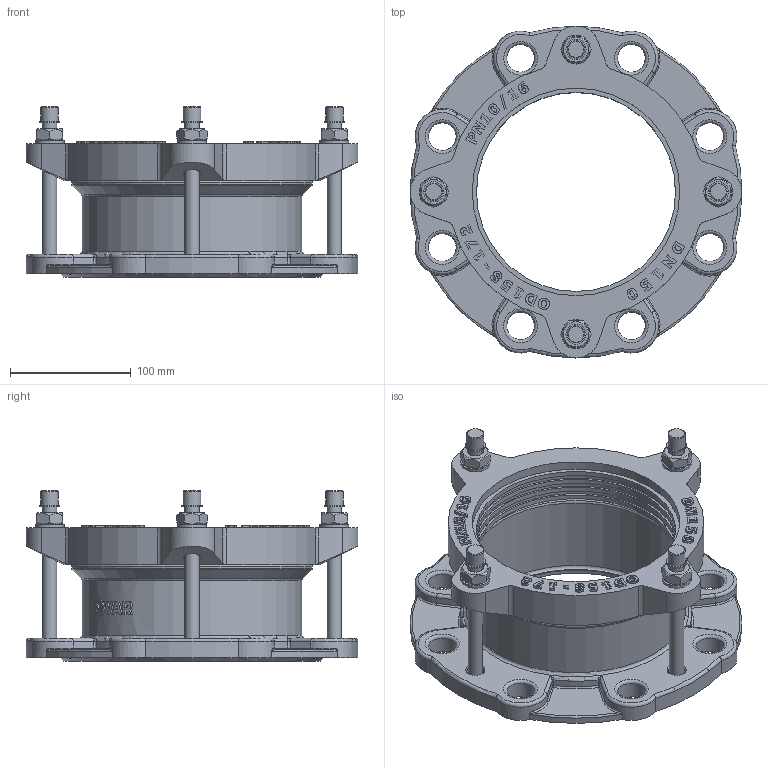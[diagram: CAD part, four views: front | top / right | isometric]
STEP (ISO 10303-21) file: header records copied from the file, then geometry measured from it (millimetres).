
FILE_DESCRIPTION(('STEP AP203'), '1');
FILE_NAME('Ôëàíöåâûé àäàïòåð', '', ('UNSPECIFIED'), ('UNSPECIFIED'), 'C3D Converter', 'C3D Toolkit', '');
FILE_SCHEMA(('CONFIG_CONTROL_DESIGN'));
Length unit declared in the file: millimetre
Assembly tree (19 placements, depth 2):
  (unnamed)
    (unnamed)
    (unnamed)  x4
    (unnamed)  x4
    (unnamed)  x4
    (unnamed)  x4
    (unnamed)
    (unnamed)
Bounding box: 275 x 275 x 141.2 mm (x, y, z)
Volume: 1273823 mm3; surface area: 357448.8 mm2
Topology: 19 solids, 19 shells, 1003 faces, 2539 edges, 1576 vertices
Faces by surface type: plane 346, extrusion 296, cylinder 202, torus 71, cone 32, bspline 32, sphere 24
Full cylindrical faces by diameter (mm): 12 x12, 13 x4, 13.478 x1, 14 x8, 14.4 x4, 16.8 x4, 23 x8, 24 x4, 165 x5, 168.5 x3, 172 x2, 177 x1, 182 x2, 199.5 x1, 202 x2
Entity records: 39142 total; most frequent: CARTESIAN_POINT 14637, ORIENTED_EDGE 4348, DIRECTION 3368, EDGE_CURVE 2174, VERTEX_POINT 1420, VECTOR 1264, AXIS2_PLACEMENT_3D 1052, EDGE_LOOP 1046
